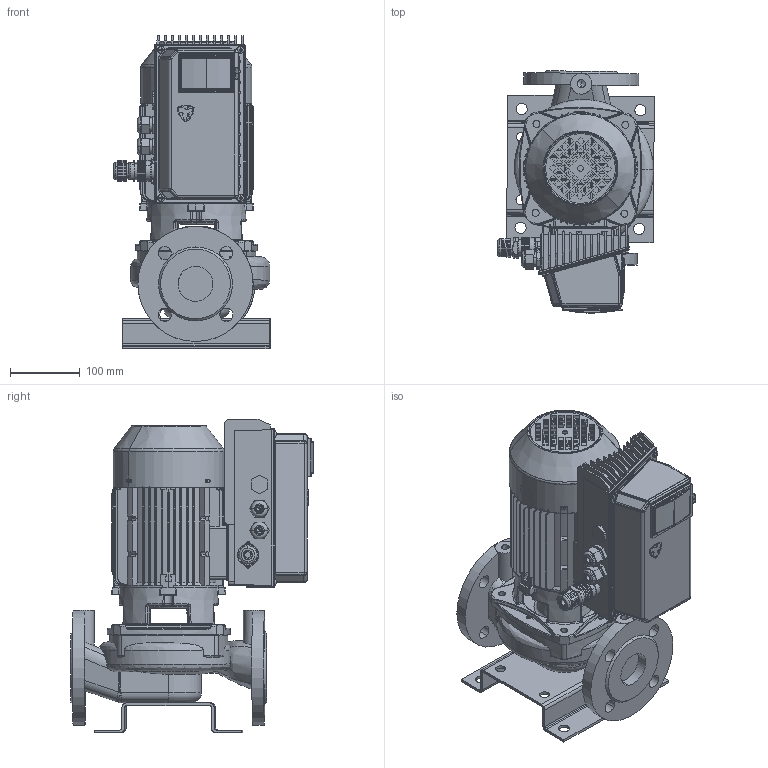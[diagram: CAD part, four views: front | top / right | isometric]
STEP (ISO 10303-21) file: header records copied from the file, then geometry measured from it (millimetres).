
FILE_DESCRIPTION(('STEP AP214'),'1');
FILE_NAME('export.stp','2018-05-31T12:05:19',(' '),(' '),'Spatial InterOp 3D',' ',' ');
FILE_SCHEMA(('AUTOMOTIVE_DESIGN { 1 0 10303 214 1 1 1 1 }'));
Length unit declared in the file: millimetre
Products named in the file (37): W_L50A4SC550KP; V_TLL50ABC; V_PPL50ABC; V_JALKA35973; 160031; 160001; V_MKP-80-2_F15; 160141; 160137; 160039___; 160040___; 160133; P100518; P100576; P100453; P100467; DIN_7985-M5x12; P100515; P100512; P100513; P100514; P100509; ontto_sylinteri; DIN_7985-M3x12; P100569; P100567; P100566; P100565; P100606; P100607; P100580; P101504; P101332; PART3; PART4
Assembly tree (41 placements, depth 4):
  W_L50A4SC550KP
    V_TLL50ABC
    V_PPL50ABC
    V_JALKA35973
    V_MKP-80-2_F15
      160031
        160001
      160141
        160137
      160039___
      160040___
      160133
    P100518
      P100576
      P100453
      P100467
      DIN_7985-M5x12  x4
      P100515
        P100512
        P100513
        P100514
        P100509
        ontto_sylinteri
      DIN_7985-M3x12  x2
      P100569
      P100567
        P100566
        P100565
        ontto_sylinteri
      P100606
        P100607
        P100565
        ontto_sylinteri
      P100580
      P101504
      P101332
        PART3
        PART4
Bounding box: 224.82 x 347.67 x 449.37 mm (x, y, z)
Volume: 4492761.1 mm3; surface area: 1350029.5 mm2
Topology: 33 solids, 33 shells, 4391 faces, 11548 edges, 7247 vertices
Faces by surface type: plane 1757, cylinder 1437, torus 456, bspline 343, cone 239, sphere 159
Entity records: 188473 total; most frequent: CARTESIAN_POINT 51738, ORIENTED_EDGE 22364, DIRECTION 22067, EDGE_CURVE 11182, AXIS2_PLACEMENT_3D 8430, VERTEX_POINT 7073, LINE 5207, VECTOR 5207
